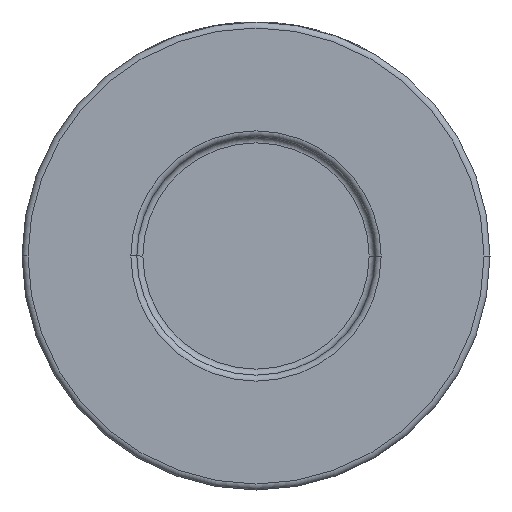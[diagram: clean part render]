
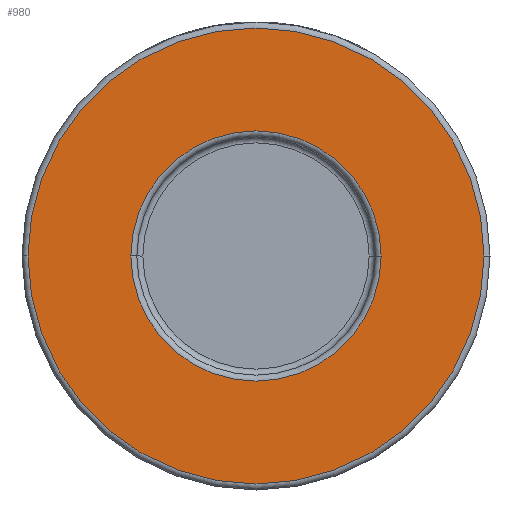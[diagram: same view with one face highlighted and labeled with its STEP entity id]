
A CAD part, front view. The second image highlights one B-rep face of the part: STEP entity #980.
In plain terms, the highlighted planar face has unit normal (0, -1, 0).
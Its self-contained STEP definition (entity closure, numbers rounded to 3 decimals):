
#215 = AXIS2_PLACEMENT_3D ( 'NONE', #3109, #1588, #4529 ) ;
#330 = DIRECTION ( 'NONE',  ( 0., -1., 0. ) ) ;
#402 = VERTEX_POINT ( 'NONE', #3745 ) ;
#451 = AXIS2_PLACEMENT_3D ( 'NONE', #698, #2836, #3563 ) ;
#581 = VERTEX_POINT ( 'NONE', #1518 ) ;
#588 = AXIS2_PLACEMENT_3D ( 'NONE', #3330, #2310, #3754 ) ;
#698 = CARTESIAN_POINT ( 'NONE',  ( 0., -29., 0. ) ) ;
#980 = ADVANCED_FACE ( 'NONE', ( #1535, #2665 ), #4094, .T. ) ;
#1428 = ORIENTED_EDGE ( 'NONE', *, *, #4015, .T. ) ;
#1498 = VERTEX_POINT ( 'NONE', #2714 ) ;
#1518 = CARTESIAN_POINT ( 'NONE',  ( 20.85, -29., 0. ) ) ;
#1534 = EDGE_LOOP ( 'NONE', ( #1428, #4008 ) ) ;
#1535 = FACE_BOUND ( 'NONE', #2426, .T. ) ;
#1588 = DIRECTION ( 'NONE',  ( 0., 1., 0. ) ) ;
#1608 = EDGE_CURVE ( 'NONE', #1498, #2992, #2241, .T. ) ;
#2076 = DIRECTION ( 'NONE',  ( 1., 0., 0. ) ) ;
#2159 = CIRCLE ( 'NONE', #215, 20.85 ) ;
#2241 = CIRCLE ( 'NONE', #4261, 38. ) ;
#2250 = CIRCLE ( 'NONE', #451, 38. ) ;
#2288 = CARTESIAN_POINT ( 'NONE',  ( 0., -29., 0. ) ) ;
#2310 = DIRECTION ( 'NONE',  ( 0., -1., 0. ) ) ;
#2426 = EDGE_LOOP ( 'NONE', ( #4170, #3742 ) ) ;
#2598 = DIRECTION ( 'NONE',  ( 0., 1., 0. ) ) ;
#2624 = DIRECTION ( 'NONE',  ( 1., 0., 0. ) ) ;
#2665 = FACE_OUTER_BOUND ( 'NONE', #1534, .T. ) ;
#2714 = CARTESIAN_POINT ( 'NONE',  ( -38., -29., 0. ) ) ;
#2804 = CARTESIAN_POINT ( 'NONE',  ( 0., -29., 0. ) ) ;
#2836 = DIRECTION ( 'NONE',  ( 0., -1., 0. ) ) ;
#2992 = VERTEX_POINT ( 'NONE', #4228 ) ;
#3109 = CARTESIAN_POINT ( 'NONE',  ( 0., -29., 0. ) ) ;
#3218 = EDGE_CURVE ( 'NONE', #581, #402, #3295, .T. ) ;
#3295 = CIRCLE ( 'NONE', #3764, 20.85 ) ;
#3330 = CARTESIAN_POINT ( 'NONE',  ( 39., -29., 0. ) ) ;
#3563 = DIRECTION ( 'NONE',  ( 1., 0., 0. ) ) ;
#3742 = ORIENTED_EDGE ( 'NONE', *, *, #4221, .T. ) ;
#3745 = CARTESIAN_POINT ( 'NONE',  ( -20.85, -29., 0. ) ) ;
#3754 = DIRECTION ( 'NONE',  ( 1., 0., 0. ) ) ;
#3764 = AXIS2_PLACEMENT_3D ( 'NONE', #2288, #2598, #2624 ) ;
#4008 = ORIENTED_EDGE ( 'NONE', *, *, #1608, .T. ) ;
#4015 = EDGE_CURVE ( 'NONE', #2992, #1498, #2250, .T. ) ;
#4094 = PLANE ( 'NONE',  #588 ) ;
#4170 = ORIENTED_EDGE ( 'NONE', *, *, #3218, .T. ) ;
#4221 = EDGE_CURVE ( 'NONE', #402, #581, #2159, .T. ) ;
#4228 = CARTESIAN_POINT ( 'NONE',  ( 38., -29., 0. ) ) ;
#4261 = AXIS2_PLACEMENT_3D ( 'NONE', #2804, #330, #2076 ) ;
#4529 = DIRECTION ( 'NONE',  ( 1., 0., 0. ) ) ;
